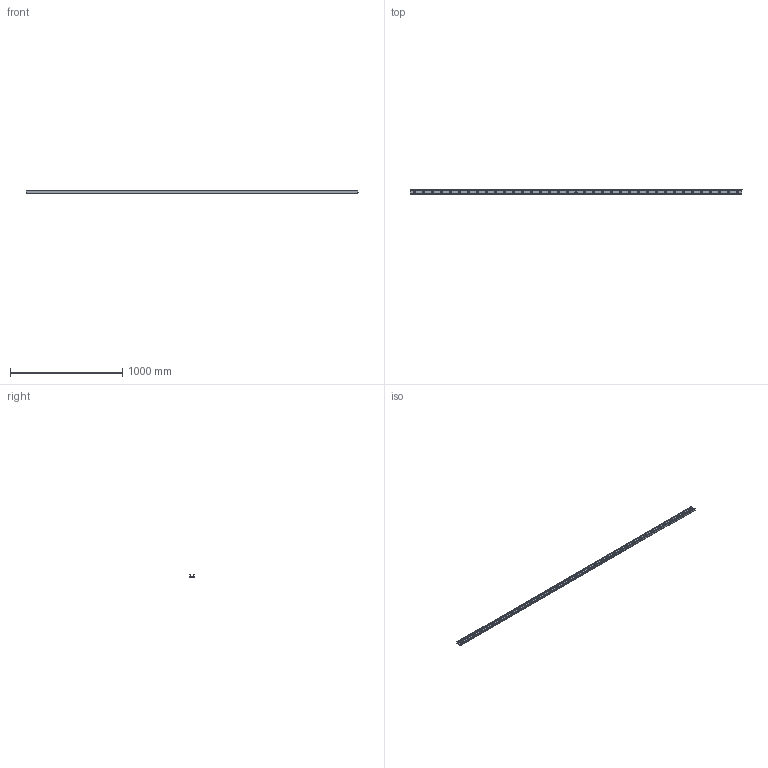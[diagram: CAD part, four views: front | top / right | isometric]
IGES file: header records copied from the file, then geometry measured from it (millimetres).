
Start section: SolidWorks IGES file using analytic representation for surfaces
Global section: file name: C:\Users\IanO\Desktop\43\L1943.ULC43_v2_20180121_IGES\L1943.ULC43-2960.igs; native system: SolidWorks 2017; preprocessor: SolidWorks 2017; author: IanO; date: 190121.085141; units: millimetre
Bounding box: 2960 x 43 x 21 mm (x, y, z)
Surface area: 464193.8 mm2 (no closed solid volume)
Topology: 0 solids, 0 shells, 211 faces, 5622 edges, 5622 vertices
Faces by surface type: revolution 161, bspline 50
